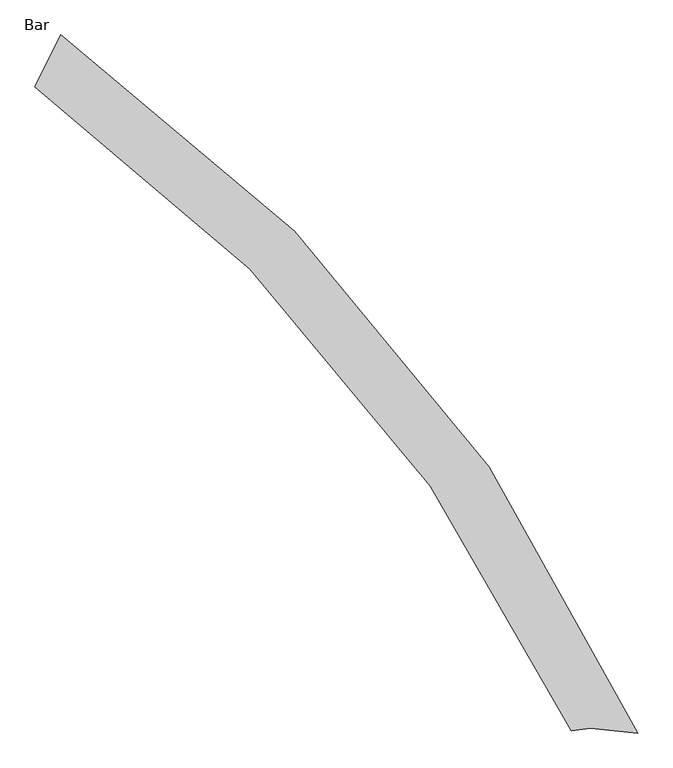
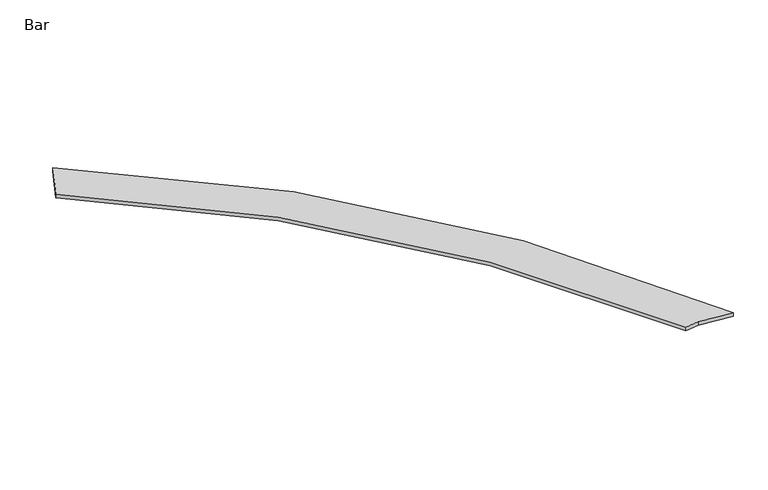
"""IFC4 building model written with IfcOpenShell, lengths in millimetres: furniture geometry, Plan de travail : Bar."""

from ifc_helpers import new_model, si_unit, point, frame_2d, origin, origin_with_axes, place, context, project, spatial, polyline, circle_curve, trimmed, segment, composite_curve, outline, extrude, source, transform, mapped, element, save


def bar_a3f97af5(model_context):
    return source(origin(), model_context, "Body", "SweptSolid", [
        extrude(outline(composite_curve([segment(trimmed(circle_curve(frame_2d((-13632.1123156, -6108.3448653)), 14449.2329078), [point((-527.9763929, -20.4919314))], [point((-5278.4019152, 5681.3054336))], True, "CARTESIAN"), True, "CONTINUOUS"), segment(polyline([(-5278.4019152, 5681.3054336), (-5047.7186108, 6139.2140007)]), True, "CONTINUOUS"), segment(trimmed(circle_curve(frame_2d((-13574.1289314, -6112.5816237)), 14926.6931695), [point((-5047.7186108, 6139.2140007))], [point((61.7649558, -40.6324412))], False, "CARTESIAN"), True, "CONTINUOUS"), segment(polyline([(61.7649558, -40.6324412), (-358.04527, 0.0), (-527.9763929, -20.4919314)]), True, "CONTINUOUS")], self_intersect=False)), origin_with_axes(), (0.0, 0.0, 1.0), 50.0),
    ])


if __name__ == "__main__":
    model = new_model("IFC4")
    model_context = context("Model", 3, world=origin())
    ifc_project = project(units=[si_unit("LENGTHUNIT", "METRE", prefix="MILLI")], contexts=[model_context])
    site = spatial("IfcSite", under=ifc_project)
    building = spatial("IfcBuilding", under=site)
    placement = place(None, origin())
    bar_shape = bar_a3f97af5(model_context)
    element("IfcFurniture", 1, ObjectType="Plan de travail : Bar", at=placement, inside=building, context=model_context, shape_type="MappedRepresentation", body=[
        mapped(bar_shape, transform((0.0, 0.0, 0.0), x_axis=(1.0, 0.0, 0.0), y_axis=(0.0, 1.0, 0.0), z_axis=(0.0, 0.0, 1.0))),
    ])
    save(model, "model.ifc")
